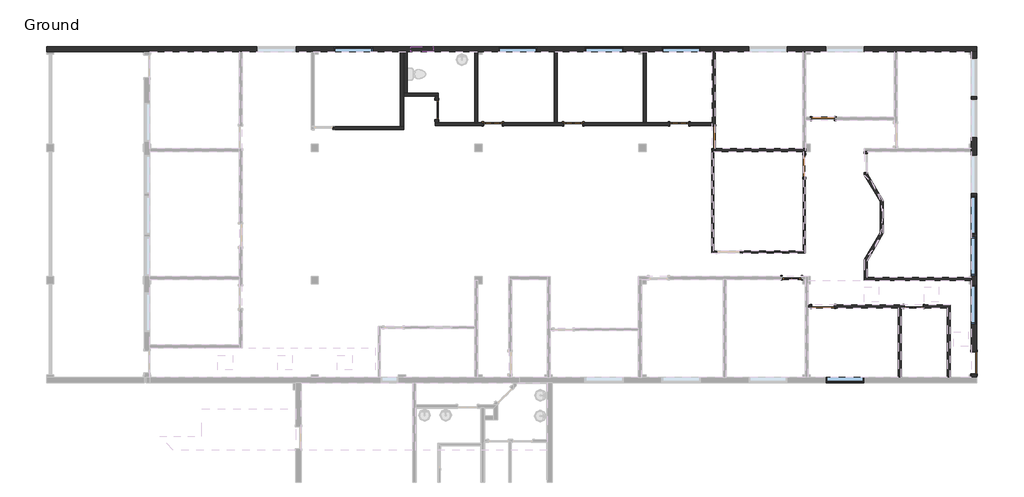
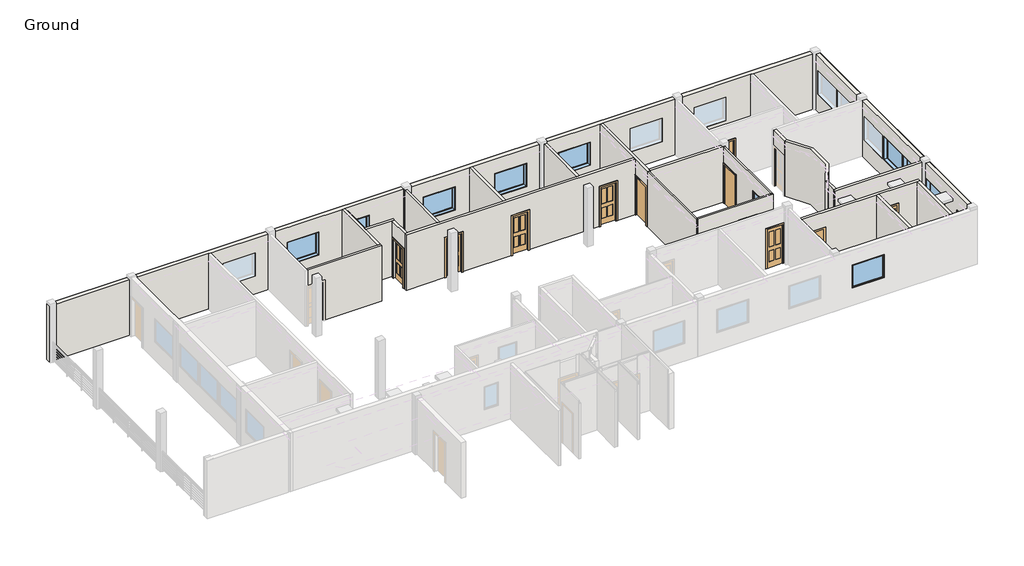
# One storey, part 3 of 4: 23 walls, 11 doors, 11 windows.
"""IFC4 building model written with IfcOpenShell, lengths in millimetres."""

from ifc_helpers import new_model, si_unit, point, frame, frame_2d, origin, origin_with_axes, place, context, project, spatial, polyline, circle_curve, trimmed, segment, composite_curve, outline, extrude, faceted_brep, transform, mapped, element, save
from components import door_43f271b1, door_0f3f7c0c, door_c0366a91, door_dce19e30, door_bfc1a142, door_dc1c1a0d, door_238e255b, fixed_3_x_3_w3_42a4cb5f, window_74e4fc61, window_a0bf6c86

model = new_model("IFC4")

# Units and contexts
model_context = context("Model", 3, world=origin())
ifc_project = project(units=[si_unit("LENGTHUNIT", "METRE", prefix="MILLI")], contexts=[model_context])

# Site, building, storey
site = spatial("IfcSite", under=ifc_project)
building = spatial("IfcBuilding", under=site)
storey = spatial("IfcBuildingStorey", under=building, Name="Ground", Elevation=0.0)

# Doors
placement = place(None, origin())
door_shape = door_43f271b1(model_context)
element("IfcDoor", 1, ObjectType="Single-Flush : 36\" x 80\" - D1", at=placement, inside=storey, context=model_context, shape_type="MappedRepresentation", body=[
    mapped(door_shape, transform((-16750.902824, 18800.73529, 0.0), x_axis=(0.0, -0.9999999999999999, 0.0), y_axis=(0.9999999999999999, 0.0, 0.0), z_axis=(0.0, 0.0, 1.0))),
])
element("IfcDoor", 2, ObjectType="Single-Flush : 36\" x 80\" - D1", at=placement, inside=storey, context=model_context, shape_type="MappedRepresentation", body=[
    mapped(door_shape, transform((-12274.152824, 11880.82279, 0.0), x_axis=(-0.9999999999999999, 0.0, 0.0), y_axis=(0.0, -0.9999999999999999, 0.0), z_axis=(0.0, 0.0, 1.0))),
])
door_2_shape = door_0f3f7c0c(model_context)
element("IfcDoor", 3, ObjectType="Single-Flush : 36\" x 80\" - D1", at=placement, inside=storey, context=model_context, shape_type="MappedRepresentation", body=[
    mapped(door_2_shape, transform((-12274.152824, 19570.67279, 0.0), x_axis=(-1.0, 0.0, 0.0), y_axis=(0.0, -1.0, 0.0), z_axis=(0.0, 0.0, 1.0))),
])
door_3_shape = door_c0366a91(model_context)
element("IfcDoor", 4, ObjectType="Single-Flush : 36\" x 80\" - D1", at=placement, inside=storey, context=model_context, shape_type="MappedRepresentation", body=[
    mapped(door_3_shape, transform((-13044.090324, 17627.57279, 0.0), x_axis=(0.0, 1.0, 0.0), y_axis=(-1.0, 0.0, 0.0), z_axis=(0.0, 0.0, 1.0))),
])
door_4_shape = door_dce19e30(model_context)
element("IfcDoor", 5, ObjectType="Single-Flush : 36\" x 80\" - D1", at=placement, inside=storey, context=model_context, shape_type="MappedRepresentation", body=[
    mapped(door_4_shape, transform((-6095.602824, 9569.42279, 0.0), x_axis=(0.0, -0.9999999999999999, 0.0), y_axis=(0.9999999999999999, 0.0, 0.0), z_axis=(0.0, 0.0, 1.0))),
])
door_5_shape = door_bfc1a142(model_context)
element("IfcDoor", 6, ObjectType="Single-Glass 3 : 30\" x 80\" - D3", at=placement, inside=storey, context=model_context, shape_type="MappedRepresentation", body=[
    mapped(door_5_shape, transform((-25786.952824, 19354.77279, 0.0), x_axis=(-1.0, 0.0, 0.0), y_axis=(0.0, -1.0, 0.0), z_axis=(0.0, 0.0, 1.0))),
])
element("IfcDoor", 7, ObjectType="Single-Glass 3 : 30\" x 80\" - D3", at=placement, inside=storey, context=model_context, shape_type="MappedRepresentation", body=[
    mapped(door_5_shape, transform((-13556.852824, 13055.57279, 0.0), x_axis=(1.0, 0.0, 0.0), y_axis=(0.0, 1.0, 0.0), z_axis=(0.0, 0.0, 1.0))),
])
element("IfcDoor", 8, ObjectType="Single-Glass 3 : 30\" x 80\" - D3", at=placement, inside=storey, context=model_context, shape_type="MappedRepresentation", body=[
    mapped(door_5_shape, transform((-22497.652824, 19354.77279, 0.0), x_axis=(-1.0, 0.0, 0.0), y_axis=(0.0, -1.0, 0.0), z_axis=(0.0, 0.0, 1.0))),
])
door_6_shape = door_dc1c1a0d(model_context)
element("IfcDoor", 9, ObjectType="Single-Glass 3 : 30\" x 80\" - D3", at=placement, inside=storey, context=model_context, shape_type="MappedRepresentation", body=[
    mapped(door_6_shape, transform((-8567.340324, 11880.82279, 0.0), x_axis=(-0.9999999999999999, 0.0, 0.0), y_axis=(0.0, -0.9999999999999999, 0.0), z_axis=(0.0, 0.0, 1.0))),
])
element("IfcDoor", 10, ObjectType="Single-Glass 3 : 30\" x 80\" - D3", at=placement, inside=storey, context=model_context, shape_type="MappedRepresentation", body=[
    mapped(door_6_shape, transform((-18159.809074, 19354.77279, 0.0), x_axis=(1.0, 0.0, 0.0), y_axis=(0.0, 1.0, 0.0), z_axis=(0.0, 0.0, 1.0))),
])
door_7_shape = door_238e255b(model_context)
element("IfcDoor", 11, ObjectType="Single-Glass 3 : 32\" x 80\" - D2", at=placement, inside=storey, context=model_context, shape_type="MappedRepresentation", body=[
    mapped(door_7_shape, transform((-28079.302824, 19932.62279, 0.0), x_axis=(0.0, -1.0, 0.0), y_axis=(1.0, 0.0, 0.0), z_axis=(0.0, 0.0, 1.0))),
])

# Walls
element("IfcWall", 12, ObjectType="Generic - 6\"", at=placement, inside=storey, context=model_context, shape_type="SweptSolid", body=[
    extrude(outline(polyline([(-29439.790324, 20623.18529), (-29439.790324, 22307.52279), (-29287.390324, 22307.52279), (-29287.390324, 20623.18529), (-29439.790324, 20623.18529)])), origin_with_axes(), (0.0, 0.0, 1.0), 2743.2),
])
element("IfcWall", 13, ObjectType="Generic - 8\" Masonry existing", at=placement, inside=storey, context=model_context, shape_type="Brep", body=[
    faceted_brep([(-44043.202824, 22307.52279, 0.0), (-40037.940324, 22307.52279, 0.0), (-39818.865324, 22307.52279, 0.0), (-36166.027824, 22307.52279, 0.0), (-36042.202824, 22307.52279, 0.0), (-33222.802824, 22307.52279, 0.0), (-33098.977824, 22307.52279, 0.0), (-29563.615324, 22307.52279, 0.0), (-29439.790324, 22307.52279, 0.0), (-29287.390324, 22307.52279, 0.0), (-26517.202824, 22307.52279, 0.0), (-26393.377824, 22307.52279, 0.0), (-23264.415324, 22307.52279, 0.0), (-23140.590324, 22307.52279, 0.0), (-19630.627824, 22307.52279, 0.0), (-19506.802824, 22307.52279, 0.0), (-16812.815324, 22307.52279, 0.0), (-16688.990324, 22307.52279, 0.0), (-13106.002824, 22307.52279, 0.0), (-12982.177824, 22307.52279, 0.0), (-9372.202824, 22307.52279, 0.0), (-9248.377824, 22307.52279, 0.0), (-6205.140324, 22307.52279, 0.0), (-5986.065324, 22307.52279, 0.0), (-5986.065324, 22307.52279, 2895.6), (-5998.765324, 22307.52279, 2895.6), (-6205.140324, 22307.52279, 2895.6), (-9248.377824, 22307.52279, 2895.6), (-9372.202824, 22307.52279, 2895.6), (-12982.177824, 22307.52279, 2895.6), (-13106.002824, 22307.52279, 2895.6), (-16688.990324, 22307.52279, 2895.6), (-16812.815324, 22307.52279, 2895.6), (-19506.802824, 22307.52279, 2895.6), (-19630.627824, 22307.52279, 2895.6), (-23140.590324, 22307.52279, 2895.6), (-23264.415324, 22307.52279, 2895.6), (-26393.377824, 22307.52279, 2895.6), (-26517.202824, 22307.52279, 2895.6), (-29439.790324, 22307.52279, 2895.6), (-29563.615324, 22307.52279, 2895.6), (-33098.977824, 22307.52279, 2895.6), (-33222.802824, 22307.52279, 2895.6), (-36042.202824, 22307.52279, 2895.6), (-36166.027824, 22307.52279, 2895.6), (-44043.202824, 22307.52279, 2895.6), (-28220.590324, 22307.52279, 2133.6), (-28220.590324, 22307.52279, 1219.2), (-29134.990324, 22307.52279, 1219.2), (-29134.990324, 22307.52279, 2133.6), (-17297.002824, 22307.52279, 2133.6), (-17297.002824, 22307.52279, 914.4), (-18871.802824, 22307.52279, 914.4), (-18871.802824, 22307.52279, 2133.6), (-20446.602824, 22307.52279, 2133.6), (-20446.602824, 22307.52279, 914.4), (-22021.402824, 22307.52279, 914.4), (-22021.402824, 22307.52279, 2133.6), (-10591.402824, 22307.52279, 2133.6), (-10591.402824, 22307.52279, 914.4), (-12166.202824, 22307.52279, 914.4), (-12166.202824, 22307.52279, 2133.6), (-13741.002824, 22307.52279, 2133.6), (-13741.002824, 22307.52279, 914.4), (-15315.802824, 22307.52279, 914.4), (-15315.802824, 22307.52279, 2133.6), (-23977.202824, 22307.52279, 2133.6), (-23977.202824, 22307.52279, 914.4), (-25552.002824, 22307.52279, 914.4), (-25552.002824, 22307.52279, 2133.6), (-30708.202824, 22307.52279, 2133.6), (-30708.202824, 22307.52279, 914.4), (-32283.002824, 22307.52279, 914.4), (-32283.002824, 22307.52279, 2133.6), (-33857.802824, 22307.52279, 2133.6), (-33857.802824, 22307.52279, 914.4), (-35432.602824, 22307.52279, 914.4), (-35432.602824, 22307.52279, 2133.6), (-44043.202824, 22526.59779, 0.0), (-44043.202824, 22526.59779, 2895.6), (-5998.765324, 22526.59779, 2895.6), (-5986.065324, 22526.59779, 2895.6), (-5986.065324, 22526.59779, 0.0), (-28220.590324, 22526.59779, 2133.6), (-29134.990324, 22526.59779, 2133.6), (-29134.990324, 22526.59779, 1219.2), (-28220.590324, 22526.59779, 1219.2), (-17297.002824, 22526.59779, 2133.6), (-18871.802824, 22526.59779, 2133.6), (-18871.802824, 22526.59779, 914.4), (-17297.002824, 22526.59779, 914.4), (-20446.602824, 22526.59779, 2133.6), (-22021.402824, 22526.59779, 2133.6), (-22021.402824, 22526.59779, 914.4), (-20446.602824, 22526.59779, 914.4), (-10591.402824, 22526.59779, 2133.6), (-12166.202824, 22526.59779, 2133.6), (-12166.202824, 22526.59779, 914.4), (-10591.402824, 22526.59779, 914.4), (-13741.002824, 22526.59779, 2133.6), (-15315.802824, 22526.59779, 2133.6), (-15315.802824, 22526.59779, 914.4), (-13741.002824, 22526.59779, 914.4), (-23977.202824, 22526.59779, 2133.6), (-25552.002824, 22526.59779, 2133.6), (-25552.002824, 22526.59779, 914.4), (-23977.202824, 22526.59779, 914.4), (-30708.202824, 22526.59779, 2133.6), (-32283.002824, 22526.59779, 2133.6), (-32283.002824, 22526.59779, 914.4), (-30708.202824, 22526.59779, 914.4), (-33857.802824, 22526.59779, 2133.6), (-35432.602824, 22526.59779, 2133.6), (-35432.602824, 22526.59779, 914.4), (-33857.802824, 22526.59779, 914.4), (-44043.202824, 22513.89779, 2895.6), (-5986.065324, 22513.89779, 2895.6), (-5998.765324, 22513.89779, 2895.6)], [[[0, 1, 2, 3, 4, 5, 6, 7, 8, 9, 10, 11, 12, 13, 14, 15, 16, 17, 18, 19, 20, 21, 22, 23, 24, 25, 26, 27, 28, 29, 30, 31, 32, 33, 34, 35, 36, 37, 38, 39, 40, 41, 42, 43, 44, 45], [46, 47, 48, 49], [50, 51, 52, 53], [54, 55, 56, 57], [58, 59, 60, 61], [62, 63, 64, 65], [66, 67, 68, 69], [70, 71, 72, 73], [74, 75, 76, 77]], [[78, 79, 80, 81, 82], [83, 84, 85, 86], [87, 88, 89, 90], [91, 92, 93, 94], [95, 96, 97, 98], [99, 100, 101, 102], [103, 104, 105, 106], [107, 108, 109, 110], [111, 112, 113, 114]], [[23, 22, 21, 20, 19, 18, 17, 16, 15, 14, 13, 12, 11, 10, 9, 8, 7, 6, 5, 4, 3, 2, 1, 0, 78, 82]], [[0, 45, 115, 79, 78]], [[24, 23, 82, 81, 116]], [[25, 24, 116, 117]], [[80, 79, 115, 117]], [[116, 81, 80, 117]], [[45, 44, 43, 42, 41, 40, 39, 38, 37, 36, 35, 34, 33, 32, 31, 30, 29, 28, 27, 26, 25, 117, 115]], [[47, 46, 83, 86]], [[48, 47, 86, 85]], [[49, 48, 85, 84]], [[46, 49, 84, 83]], [[51, 50, 87, 90]], [[52, 51, 90, 89]], [[53, 52, 89, 88]], [[50, 53, 88, 87]], [[55, 54, 91, 94]], [[56, 55, 94, 93]], [[57, 56, 93, 92]], [[54, 57, 92, 91]], [[59, 58, 95, 98]], [[60, 59, 98, 97]], [[61, 60, 97, 96]], [[58, 61, 96, 95]], [[63, 62, 99, 102]], [[64, 63, 102, 101]], [[65, 64, 101, 100]], [[62, 65, 100, 99]], [[67, 66, 103, 106]], [[68, 67, 106, 105]], [[69, 68, 105, 104]], [[66, 69, 104, 103]], [[71, 70, 107, 110]], [[72, 71, 110, 109]], [[73, 72, 109, 108]], [[70, 73, 108, 107]], [[75, 74, 111, 114]], [[76, 75, 114, 113]], [[77, 76, 113, 112]], [[74, 77, 112, 111]]]),
])
element("IfcWall", 14, ObjectType="Generic - 8\" Masonry existing", at=placement, inside=storey, context=model_context, shape_type="Brep", body=[
    faceted_brep([(-5986.065324, 8972.52279, 0.0), (-5986.065324, 9112.22279, 0.0), (-5986.065324, 9112.22279, 2032.0), (-5986.065324, 10026.62279, 2032.0), (-5986.065324, 10026.62279, 0.0), (-5986.065324, 22307.52279, 0.0), (-5986.065324, 22307.52279, 2895.6), (-5986.065324, 8972.52279, 2895.6), (-5986.065324, 11169.62279, 2133.6), (-5986.065324, 12744.42279, 2133.6), (-5986.065324, 12744.42279, 914.4), (-5986.065324, 11169.62279, 914.4), (-5986.065324, 13150.82279, 2133.6), (-5986.065324, 14725.62279, 2133.6), (-5986.065324, 14725.62279, 914.4), (-5986.065324, 13150.82279, 914.4), (-5986.065324, 14827.22279, 2133.6), (-5986.065324, 16402.02279, 2133.6), (-5986.065324, 16402.02279, 914.4), (-5986.065324, 14827.22279, 914.4), (-5986.065324, 16503.62279, 2133.6), (-5986.065324, 18078.42279, 2133.6), (-5986.065324, 18078.42279, 914.4), (-5986.065324, 16503.62279, 914.4), (-5986.065324, 18789.62279, 2133.6), (-5986.065324, 20364.42279, 2133.6), (-5986.065324, 20364.42279, 914.4), (-5986.065324, 18789.62279, 914.4), (-5986.065324, 20466.02279, 2133.6), (-5986.065324, 22040.82279, 2133.6), (-5986.065324, 22040.82279, 914.4), (-5986.065324, 20466.02279, 914.4), (-6205.140324, 9112.22279, 2032.0), (-6205.140324, 9112.22279, 0.0), (-6205.140324, 8972.52279, 0.0), (-6205.140324, 8972.52279, 2895.6), (-6205.140324, 12949.21029, 2895.6), (-6205.140324, 13073.03529, 2895.6), (-6205.140324, 18219.71029, 2895.6), (-6205.140324, 18343.53529, 2895.6), (-6205.140324, 22307.52279, 2895.6), (-6205.140324, 22307.52279, 0.0), (-6205.140324, 18343.53529, 0.0), (-6205.140324, 18219.71029, 0.0), (-6205.140324, 13073.03529, 0.0), (-6205.140324, 12949.21029, 0.0), (-6205.140324, 10026.62279, 0.0), (-6205.140324, 10026.62279, 2032.0), (-6205.140324, 11169.62279, 2133.6), (-6205.140324, 11169.62279, 914.4), (-6205.140324, 12744.42279, 914.4), (-6205.140324, 12744.42279, 2133.6), (-6205.140324, 13150.82279, 2133.6), (-6205.140324, 13150.82279, 914.4), (-6205.140324, 14725.62279, 914.4), (-6205.140324, 14725.62279, 2133.6), (-6205.140324, 14827.22279, 2133.6), (-6205.140324, 14827.22279, 914.4), (-6205.140324, 16402.02279, 914.4), (-6205.140324, 16402.02279, 2133.6), (-6205.140324, 16503.62279, 2133.6), (-6205.140324, 16503.62279, 914.4), (-6205.140324, 18078.42279, 914.4), (-6205.140324, 18078.42279, 2133.6), (-6205.140324, 18789.62279, 2133.6), (-6205.140324, 18789.62279, 914.4), (-6205.140324, 20364.42279, 914.4), (-6205.140324, 20364.42279, 2133.6), (-6205.140324, 20466.02279, 2133.6), (-6205.140324, 20466.02279, 914.4), (-6205.140324, 22040.82279, 914.4), (-6205.140324, 22040.82279, 2133.6), (-5998.765324, 22307.52279, 2895.6), (-5998.765324, 8972.52279, 2895.6)], [[[0, 1, 2, 3, 4, 5, 6, 7], [8, 9, 10, 11], [12, 13, 14, 15], [16, 17, 18, 19], [20, 21, 22, 23], [24, 25, 26, 27], [28, 29, 30, 31]], [[32, 33, 34, 35, 36, 37, 38, 39, 40, 41, 42, 43, 44, 45, 46, 47], [48, 49, 50, 51], [52, 53, 54, 55], [56, 57, 58, 59], [60, 61, 62, 63], [64, 65, 66, 67], [68, 69, 70, 71]], [[34, 33, 1, 0]], [[46, 45, 44, 43, 42, 41, 5, 4]], [[6, 5, 41, 40, 72]], [[0, 7, 73, 35, 34]], [[7, 6, 72, 73]], [[72, 40, 39, 38, 37, 36, 35, 73]], [[2, 1, 33, 32]], [[3, 2, 32, 47]], [[4, 3, 47, 46]], [[49, 48, 8, 11]], [[50, 49, 11, 10]], [[51, 50, 10, 9]], [[48, 51, 9, 8]], [[53, 52, 12, 15]], [[54, 53, 15, 14]], [[55, 54, 14, 13]], [[52, 55, 13, 12]], [[57, 56, 16, 19]], [[58, 57, 19, 18]], [[59, 58, 18, 17]], [[56, 59, 17, 16]], [[61, 60, 20, 23]], [[62, 61, 23, 22]], [[63, 62, 22, 21]], [[60, 63, 21, 20]], [[65, 64, 24, 27]], [[66, 65, 27, 26]], [[67, 66, 26, 25]], [[64, 67, 25, 24]], [[69, 68, 28, 31]], [[70, 69, 31, 30]], [[71, 70, 30, 29]], [[68, 71, 29, 28]]]),
])
element("IfcWall", 15, ObjectType="Interior - 3 1/8\" Partition (1-hr)", at=placement, inside=storey, context=model_context, shape_type="Brep", body=[
    faceted_brep([(-16820.752824, 18219.71029, 0.0), (-16820.752824, 14071.57279, 0.0), (-16820.752824, 14071.57279, 2895.6), (-16820.752824, 18219.71029, 2895.6), (-16741.377824, 18219.71029, 0.0), (-16741.377824, 18219.71029, 2895.6), (-16741.377824, 14150.94779, 2895.6), (-16741.377824, 14071.57279, 2895.6), (-16741.377824, 14071.57279, 0.0), (-16741.377824, 14150.94779, 0.0), (-16812.815324, 18219.71029, 0.0), (-16812.815324, 18219.71029, 2895.6)], [[[0, 1, 2, 3]], [[4, 5, 6, 7, 8, 9]], [[1, 0, 10, 4, 9, 8]], [[3, 2, 7, 6, 5, 11]], [[2, 1, 8, 7]], [[0, 3, 11, 5, 4, 10]]]),
])
element("IfcWall", 16, ObjectType="Interior - 3 1/8\" Partition (1-hr)", at=placement, inside=storey, context=model_context, shape_type="Brep", body=[
    faceted_brep([(-16741.377824, 14071.57279, 0.0), (-16598.502824, 14071.57279, 0.0), (-16598.502824, 14071.57279, 2032.0), (-15684.102824, 14071.57279, 2032.0), (-15684.102824, 14071.57279, 0.0), (-13004.402824, 14071.57279, 0.0), (-13004.402824, 14071.57279, 2895.6), (-16741.377824, 14071.57279, 2895.6), (-14720.490324, 14071.57279, 2133.6), (-13806.090324, 14071.57279, 2133.6), (-13806.090324, 14071.57279, 914.4), (-14720.490324, 14071.57279, 914.4), (-16598.502824, 14150.94779, 2032.0), (-16598.502824, 14150.94779, 0.0), (-16741.377824, 14150.94779, 0.0), (-16741.377824, 14150.94779, 2895.6), (-13083.777824, 14150.94779, 2895.6), (-13004.402824, 14150.94779, 2895.6), (-13004.402824, 14150.94779, 0.0), (-13083.777824, 14150.94779, 0.0), (-15684.102824, 14150.94779, 0.0), (-15684.102824, 14150.94779, 2032.0), (-14720.490324, 14150.94779, 2133.6), (-14720.490324, 14150.94779, 914.4), (-13806.090324, 14150.94779, 914.4), (-13806.090324, 14150.94779, 2133.6)], [[[0, 1, 2, 3, 4, 5, 6, 7], [8, 9, 10, 11]], [[12, 13, 14, 15, 16, 17, 18, 19, 20, 21], [22, 23, 24, 25]], [[14, 13, 1, 0]], [[20, 19, 18, 5, 4]], [[7, 6, 17, 16, 15]], [[6, 5, 18, 17]], [[0, 7, 15, 14]], [[2, 1, 13, 12]], [[3, 2, 12, 21]], [[4, 3, 21, 20]], [[23, 22, 8, 11]], [[24, 23, 11, 10]], [[25, 24, 10, 9]], [[22, 25, 9, 8]]]),
])
element("IfcWall", 17, ObjectType="Interior - 3 1/8\" Partition (1-hr)", at=placement, inside=storey, context=model_context, shape_type="SweptSolid", body=[
    extrude(outline(polyline([(18219.71029, 0.0), (18084.77279, 0.0), (18084.77279, 2032.0), (17170.37279, 2032.0), (17170.37279, 0.0), (14150.94779, 0.0), (14150.94779, 2895.6), (18219.71029, 2895.6), (18219.71029, 0.0)]), holes=[polyline([(14760.54779, 2133.6), (14760.54779, 914.4), (15674.94779, 914.4), (15674.94779, 2133.6), (14760.54779, 2133.6)])]), frame((-13083.777824, 0.0, 0.0), z_axis=(1.0, 0.0, 0.0), x_axis=(0.0, 1.0, 0.0)), (0.0, 0.0, 1.0), 79.375),
])
element("IfcWall", 18, ObjectType="Interior - 5 1/2\" Partition (1-hr)", at=placement, inside=storey, context=model_context, shape_type="Brep", body=[
    faceted_brep([(-6205.140324, 13073.03529, 0.0), (-10467.577824, 13073.03529, 0.0), (-10591.402824, 13073.03529, 0.0), (-10591.402824, 13073.03529, 2895.6), (-10467.577824, 13073.03529, 2895.6), (-6205.140324, 13073.03529, 2895.6), (-6205.140324, 12949.21029, 0.0), (-6205.140324, 12949.21029, 2895.6), (-10591.402824, 12949.21029, 2895.6), (-10591.402824, 12949.21029, 0.0)], [[[0, 1, 2, 3, 4, 5]], [[6, 7, 8, 9]], [[2, 1, 0, 6, 9]], [[5, 4, 3, 8, 7]], [[3, 2, 9, 8]], [[0, 5, 7, 6]]]),
])
element("IfcWall", 19, ObjectType="Interior - 5 1/2\" Partition (1-hr)", at=placement, inside=storey, context=model_context, shape_type="Brep", body=[
    faceted_brep([(-12982.177824, 18343.53529, 0.0), (-13106.002824, 18343.53529, 0.0), (-16688.990324, 18343.53529, 0.0), (-16688.990324, 18343.53529, 2895.6), (-13106.002824, 18343.53529, 2895.6), (-12982.177824, 18343.53529, 2895.6), (-12982.177824, 18219.71029, 0.0), (-12982.177824, 18219.71029, 2895.6), (-13004.402824, 18219.71029, 2895.6), (-13083.777824, 18219.71029, 2895.6), (-16688.990324, 18219.71029, 2895.6), (-16688.990324, 18219.71029, 0.0), (-13083.777824, 18219.71029, 0.0), (-13004.402824, 18219.71029, 0.0)], [[[0, 1, 2, 3, 4, 5]], [[6, 7, 8, 9, 10, 11, 12, 13]], [[2, 1, 0, 6, 13, 12, 11]], [[5, 4, 3, 10, 9, 8, 7]], [[0, 5, 7, 6]], [[3, 2, 11, 10]]]),
])
element("IfcWall", 20, ObjectType="Interior - 5 1/2\" Partition (1-hr)", at=placement, inside=storey, context=model_context, shape_type="Brep", body=[
    faceted_brep([(-16688.990324, 18219.71029, 0.0), (-16688.990324, 18343.53529, 0.0), (-16688.990324, 18343.53529, 2032.0), (-16688.990324, 19257.93529, 2032.0), (-16688.990324, 19257.93529, 0.0), (-16688.990324, 22307.52279, 0.0), (-16688.990324, 22307.52279, 2895.6), (-16688.990324, 18343.53529, 2895.6), (-16688.990324, 18219.71029, 2895.6), (-16812.815324, 18343.53529, 2032.0), (-16812.815324, 18343.53529, 0.0), (-16812.815324, 18219.71029, 0.0), (-16812.815324, 18219.71029, 2895.6), (-16812.815324, 19292.86029, 2895.6), (-16812.815324, 19416.68529, 2895.6), (-16812.815324, 22307.52279, 2895.6), (-16812.815324, 22307.52279, 0.0), (-16812.815324, 19416.68529, 0.0), (-16812.815324, 19292.86029, 0.0), (-16812.815324, 19257.93529, 0.0), (-16812.815324, 19257.93529, 2032.0), (-16741.377824, 18219.71029, 0.0), (-16741.377824, 18219.71029, 2895.6)], [[[0, 1, 2, 3, 4, 5, 6, 7, 8]], [[9, 10, 11, 12, 13, 14, 15, 16, 17, 18, 19, 20]], [[11, 10, 1, 0, 21]], [[19, 18, 17, 16, 5, 4]], [[8, 7, 6, 15, 14, 13, 12, 22]], [[0, 8, 22, 12, 11, 21]], [[6, 5, 16, 15]], [[2, 1, 10, 9]], [[3, 2, 9, 20]], [[4, 3, 20, 19]]]),
])
element("IfcWall", 21, ObjectType="Interior - 5 1/2\" Partition (1-hr)", at=placement, inside=storey, context=model_context, shape_type="SweptSolid", body=[
    extrude(outline(composite_curve([segment(polyline([(-10467.577824, 13753.2813276), (-10591.402824, 13806.060194)]), True, "CONTINUOUS"), segment(trimmed(circle_curve(frame_2d((-12218.244142, 15538.42279)), 2376.4875), [point((-10591.402824, 13806.060194))], [point((-10591.402824, 17270.785386))], True, "CARTESIAN"), True, "CONTINUOUS"), segment(polyline([(-10591.402824, 17270.785386), (-10467.577824, 17323.5642525)]), True, "CONTINUOUS"), segment(trimmed(circle_curve(frame_2d((-12218.244142, 15538.42279)), 2500.3125), [point((-10467.577824, 17323.5642525))], [point((-10467.577824, 13753.2813276))], False, "CARTESIAN"), True, "CONTINUOUS")], self_intersect=False)), origin_with_axes(), (0.0, 0.0, 1.0), 2895.6),
])
element("IfcWall", 22, ObjectType="Interior - 5 1/2\" Partition (1-hr)", at=placement, inside=storey, context=model_context, shape_type="SweptSolid", body=[
    extrude(outline(polyline([(-10591.402824, 13073.03529), (-10591.402824, 13806.060194), (-10467.577824, 13753.2813276), (-10467.577824, 13073.03529), (-10591.402824, 13073.03529)])), origin_with_axes(), (0.0, 0.0, 1.0), 2895.6),
])
element("IfcWall", 23, ObjectType="Interior - 5 1/2\" Partition (1-hr)", at=placement, inside=storey, context=model_context, shape_type="Brep", body=[
    faceted_brep([(-10591.402824, 18219.71029, 0.0), (-10591.402824, 18135.4487735, 0.0), (-10591.402824, 18135.4487735, 2032.0), (-10591.402824, 17373.4487735, 2032.0), (-10591.402824, 17373.4487735, 0.0), (-10591.402824, 17270.785386, 0.0), (-10591.402824, 17270.785386, 2895.6), (-10591.402824, 18219.71029, 2895.6), (-10467.577824, 18135.4487735, 2032.0), (-10467.577824, 18135.4487735, 0.0), (-10467.577824, 18219.71029, 0.0), (-10467.577824, 18219.71029, 2895.6), (-10467.577824, 17323.5642525, 2895.6), (-10467.577824, 17323.5642525, 0.0), (-10467.577824, 17373.4487735, 0.0), (-10467.577824, 17373.4487735, 2032.0)], [[[0, 1, 2, 3, 4, 5, 6, 7]], [[8, 9, 10, 11, 12, 13, 14, 15]], [[10, 9, 1, 0]], [[14, 13, 5, 4]], [[7, 6, 12, 11]], [[6, 5, 13, 12]], [[0, 7, 11, 10]], [[2, 1, 9, 8]], [[3, 2, 8, 15]], [[4, 3, 15, 14]]]),
])
element("IfcWall", 24, ObjectType="Interior - 5 1/2\" Partition (1-hr)", at=placement, inside=storey, context=model_context, shape_type="Brep", body=[
    faceted_brep([(-29439.790324, 19118.23529, 2895.6), (-33098.977824, 19118.23529, 2895.6), (-33098.977824, 19118.23529, 2032.0), (-32336.8538075, 19118.23529, 2032.0), (-32336.8538075, 19118.23529, 0.0), (-29439.790324, 19118.23529, 0.0), (-33098.977824, 19242.06029, 2895.6), (-29563.615324, 19242.06029, 2895.6), (-29439.790324, 19242.06029, 2895.6), (-29439.790324, 19242.06029, 0.0), (-29563.615324, 19242.06029, 0.0), (-32336.8538075, 19242.06029, 0.0), (-32336.8538075, 19242.06029, 2032.0), (-33098.977824, 19242.06029, 2032.0)], [[[0, 1, 2, 3, 4, 5]], [[6, 7, 8, 9, 10, 11, 12, 13]], [[9, 5, 4, 11, 10]], [[1, 0, 8, 7, 6]], [[0, 5, 9, 8]], [[1, 6, 13, 2]], [[12, 3, 2, 13]], [[3, 12, 11, 4]]]),
])
element("IfcWall", 25, ObjectType="Interior - 5 1/2\" Partition (1-hr)", at=placement, inside=storey, context=model_context, shape_type="Brep", body=[
    faceted_brep([(-29439.790324, 19242.06029, 0.0), (-29439.790324, 20499.36029, 0.0), (-29439.790324, 20623.18529, 0.0), (-29439.790324, 22307.52279, 0.0), (-29439.790324, 22307.52279, 2895.6), (-29439.790324, 20623.18529, 2895.6), (-29439.790324, 20499.36029, 2895.6), (-29439.790324, 19242.06029, 2895.6), (-29563.615324, 19242.06029, 0.0), (-29563.615324, 19242.06029, 2895.6), (-29563.615324, 22307.52279, 2895.6), (-29563.615324, 22307.52279, 0.0)], [[[0, 1, 2, 3, 4, 5, 6, 7]], [[8, 9, 10, 11]], [[3, 2, 1, 0, 8, 11]], [[7, 6, 5, 4, 10, 9]], [[4, 3, 11, 10]], [[0, 7, 9, 8]]]),
])
element("IfcWall", 26, ObjectType="Interior - 5 1/2\" Partition (1-hr)", at=placement, inside=storey, context=model_context, shape_type="SweptSolid", body=[
    extrude(outline(polyline([(-26517.202824, 19416.68529), (-26517.202824, 22307.52279), (-26393.377824, 22307.52279), (-26393.377824, 19416.68529), (-26517.202824, 19416.68529)])), origin_with_axes(), (0.0, 0.0, 1.0), 2895.6),
])
element("IfcWall", 27, ObjectType="Interior - 5 1/2\" Partition (1-hr)", at=placement, inside=storey, context=model_context, shape_type="SweptSolid", body=[
    extrude(outline(polyline([(-23140.590324, 22307.52279), (-23140.590324, 19416.68529), (-23264.415324, 19416.68529), (-23264.415324, 22307.52279), (-23140.590324, 22307.52279)])), origin_with_axes(), (0.0, 0.0, 1.0), 2895.6),
])
element("IfcWall", 28, ObjectType="Interior - 5 1/2\" Partition (1-hr)", at=placement, inside=storey, context=model_context, shape_type="Brep", body=[
    faceted_brep([(-8948.2163075, 11942.73529, 2032.0), (-8948.2163075, 11942.73529, 0.0), (-11816.952824, 11942.73529, 0.0), (-11816.952824, 11942.73529, 2032.0), (-12731.352824, 11942.73529, 2032.0), (-12731.352824, 11942.73529, 0.0), (-12891.690324, 11942.73529, 0.0), (-12891.690324, 11942.73529, 2895.6), (-7071.915324, 11942.73529, 2895.6), (-7071.915324, 11942.73529, 0.0), (-8186.2163075, 11942.73529, 0.0), (-8186.2163075, 11942.73529, 2032.0), (-11816.952824, 11818.91029, 0.0), (-9207.102824, 11818.91029, 0.0), (-9083.277824, 11818.91029, 0.0), (-8948.2163075, 11818.91029, 0.0), (-8948.2163075, 11818.91029, 2032.0), (-8186.2163075, 11818.91029, 2032.0), (-8186.2163075, 11818.91029, 0.0), (-7195.740324, 11818.91029, 0.0), (-7071.915324, 11818.91029, 0.0), (-7071.915324, 11818.91029, 2895.6), (-7195.740324, 11818.91029, 2895.6), (-9083.277824, 11818.91029, 2895.6), (-9207.102824, 11818.91029, 2895.6), (-12891.690324, 11818.91029, 2895.6), (-12891.690324, 11818.91029, 0.0), (-12731.352824, 11818.91029, 0.0), (-12731.352824, 11818.91029, 2032.0), (-11816.952824, 11818.91029, 2032.0)], [[[0, 1, 2, 3, 4, 5, 6, 7, 8, 9, 10, 11]], [[12, 13, 14, 15, 16, 17, 18, 19, 20, 21, 22, 23, 24, 25, 26, 27, 28, 29]], [[6, 5, 27, 26]], [[2, 1, 15, 14, 13, 12]], [[10, 9, 20, 19, 18]], [[8, 7, 25, 24, 23, 22, 21]], [[9, 8, 21, 20]], [[7, 6, 26, 25]], [[28, 27, 5, 4]], [[29, 28, 4, 3]], [[12, 29, 3, 2]], [[16, 15, 1, 0]], [[17, 16, 0, 11]], [[18, 17, 11, 10]]]),
])
element("IfcWall", 29, ObjectType="Interior - 5 1/2\" Partition (1-hr)", at=placement, inside=storey, context=model_context, shape_type="SweptSolid", body=[
    extrude(outline(polyline([(-19630.627824, 19416.68529), (-19630.627824, 22307.52279), (-19506.802824, 22307.52279), (-19506.802824, 19416.68529), (-19630.627824, 19416.68529)])), origin_with_axes(), (0.0, 0.0, 1.0), 2895.6),
])
element("IfcWall", 30, ObjectType="Interior - 5 1/2\" Partition (1-hr)", at=placement, inside=storey, context=model_context, shape_type="Brep", body=[
    faceted_brep([(-29439.790324, 20499.36029, 0.0), (-28141.215324, 20499.36029, 0.0), (-28017.390324, 20499.36029, 0.0), (-28017.390324, 20499.36029, 2895.6), (-28141.215324, 20499.36029, 2895.6), (-29439.790324, 20499.36029, 2895.6), (-29439.790324, 20623.18529, 0.0), (-29439.790324, 20623.18529, 2743.2), (-29439.790324, 20623.18529, 2895.6), (-28017.390324, 20623.18529, 2895.6), (-28017.390324, 20623.18529, 0.0), (-29287.390324, 20623.18529, 0.0)], [[[0, 1, 2, 3, 4, 5]], [[6, 7, 8, 9, 10, 11]], [[2, 1, 0, 6, 11, 10]], [[5, 4, 3, 9, 8]], [[3, 2, 10, 9]], [[0, 5, 8, 7, 6]]]),
])
element("IfcWall", 31, ObjectType="Interior - 5 1/2\" Partition (1-hr)", at=placement, inside=storey, context=model_context, shape_type="SweptSolid", body=[
    extrude(outline(polyline([(19416.68529, 2895.6), (20499.36029, 2895.6), (20499.36029, 0.0), (20339.1468066, 0.0), (20339.1468066, 2032.0), (19526.3468066, 2032.0), (19526.3468066, 0.0), (19416.68529, 0.0), (19416.68529, 2895.6)])), frame((-28141.215324, 0.0, 0.0), z_axis=(1.0, 0.0, 0.0), x_axis=(0.0, 1.0, 0.0)), (0.0, 0.0, 1.0), 123.825),
])
element("IfcWall", 32, ObjectType="Interior - 5 1/2\" Partition (1-hr)", at=placement, inside=storey, context=model_context, shape_type="Brep", body=[
    faceted_brep([(-17778.9330906, 19292.86029, 2032.0), (-17778.9330906, 19292.86029, 0.0), (-16812.815324, 19292.86029, 0.0), (-16812.815324, 19292.86029, 2895.6), (-28141.215324, 19292.86029, 2895.6), (-28141.215324, 19292.86029, 0.0), (-26167.8288075, 19292.86029, 0.0), (-26167.8288075, 19292.86029, 2032.0), (-25405.8288075, 19292.86029, 2032.0), (-25405.8288075, 19292.86029, 0.0), (-22878.5288075, 19292.86029, 0.0), (-22878.5288075, 19292.86029, 2032.0), (-22116.5288075, 19292.86029, 2032.0), (-22116.5288075, 19292.86029, 0.0), (-18540.9330906, 19292.86029, 0.0), (-18540.9330906, 19292.86029, 2032.0), (-16812.815324, 19416.68529, 0.0), (-17778.9330906, 19416.68529, 0.0), (-17778.9330906, 19416.68529, 2032.0), (-18540.9330906, 19416.68529, 2032.0), (-18540.9330906, 19416.68529, 0.0), (-19506.802824, 19416.68529, 0.0), (-19630.627824, 19416.68529, 0.0), (-22116.5288075, 19416.68529, 0.0), (-22116.5288075, 19416.68529, 2032.0), (-22878.5288075, 19416.68529, 2032.0), (-22878.5288075, 19416.68529, 0.0), (-23140.590324, 19416.68529, 0.0), (-23264.415324, 19416.68529, 0.0), (-25405.8288075, 19416.68529, 0.0), (-25405.8288075, 19416.68529, 2032.0), (-26167.8288075, 19416.68529, 2032.0), (-26167.8288075, 19416.68529, 0.0), (-26393.377824, 19416.68529, 0.0), (-26517.202824, 19416.68529, 0.0), (-28017.390324, 19416.68529, 0.0), (-28141.215324, 19416.68529, 0.0), (-28141.215324, 19416.68529, 2895.6), (-28017.390324, 19416.68529, 2895.6), (-26517.202824, 19416.68529, 2895.6), (-26393.377824, 19416.68529, 2895.6), (-23264.415324, 19416.68529, 2895.6), (-23140.590324, 19416.68529, 2895.6), (-19630.627824, 19416.68529, 2895.6), (-19506.802824, 19416.68529, 2895.6), (-16812.815324, 19416.68529, 2895.6)], [[[0, 1, 2, 3, 4, 5, 6, 7, 8, 9, 10, 11, 12, 13, 14, 15]], [[16, 17, 18, 19, 20, 21, 22, 23, 24, 25, 26, 27, 28, 29, 30, 31, 32, 33, 34, 35, 36, 37, 38, 39, 40, 41, 42, 43, 44, 45]], [[36, 35, 34, 33, 32, 6, 5]], [[29, 28, 27, 26, 10, 9]], [[2, 1, 17, 16]], [[14, 13, 23, 22, 21, 20]], [[4, 3, 45, 44, 43, 42, 41, 40, 39, 38, 37]], [[5, 4, 37, 36]], [[3, 2, 16, 45]], [[7, 6, 32, 31]], [[8, 7, 31, 30]], [[9, 8, 30, 29]], [[11, 10, 26, 25]], [[12, 11, 25, 24]], [[13, 12, 24, 23]], [[18, 17, 1, 0]], [[19, 18, 0, 15]], [[20, 19, 15, 14]]]),
])
element("IfcWall", 33, ObjectType="Interior - 5 1/2\" Partition (1-hr)", at=placement, inside=storey, context=model_context, shape_type="SweptSolid", body=[
    extrude(outline(polyline([(-9207.102824, 8972.52279), (-9207.102824, 11818.91029), (-9083.277824, 11818.91029), (-9083.277824, 8972.52279), (-9207.102824, 8972.52279)])), origin_with_axes(), (0.0, 0.0, 1.0), 2895.6),
])
element("IfcWall", 34, ObjectType="Interior - 5 1/2\" Partition (1-hr)", at=placement, inside=storey, context=model_context, shape_type="SweptSolid", body=[
    extrude(outline(polyline([(-7195.740324, 8972.52279), (-7195.740324, 11818.91029), (-7071.915324, 11818.91029), (-7071.915324, 8972.52279), (-7195.740324, 8972.52279)])), origin_with_axes(), (0.0, 0.0, 1.0), 2895.6),
])

# Windows
fixed_3_x_3_w3_shape = fixed_3_x_3_w3_42a4cb5f(model_context)
element("IfcWindow", 35, ObjectType="Fixed : 3'x 3' - W3", at=placement, inside=storey, context=model_context, shape_type="MappedRepresentation", body=[
    mapped(fixed_3_x_3_w3_shape, transform((-28639.690324, 22417.06029, -304.8), x_axis=(1.0, 0.0, 0.0), y_axis=(0.0, 1.0, 0.0), z_axis=(0.0, 0.0, 1.0))),
])
window_shape = window_74e4fc61(model_context)
element("IfcWindow", 36, ObjectType="Fixed : 36\" x 48\" - W2", at=placement, inside=storey, context=model_context, shape_type="MappedRepresentation", body=[
    mapped(window_shape, transform((-14301.390324, 14111.26029, 0.0), x_axis=(-0.9999999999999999, 0.0, 0.0), y_axis=(0.0, -0.9999999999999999, 0.0), z_axis=(0.0, 0.0, 1.0))),
])
element("IfcWindow", 37, ObjectType="Fixed : 36\" x 48\" - W2", at=placement, inside=storey, context=model_context, shape_type="MappedRepresentation", body=[
    mapped(window_shape, transform((-13044.090324, 15179.64779, 0.0), x_axis=(0.0, -1.0, 0.0), y_axis=(1.0, 0.0, 0.0), z_axis=(0.0, 0.0, 1.0))),
])
window_2_shape = window_a0bf6c86(model_context)
element("IfcWindow", 38, ObjectType="Fixed : 60\" x 48\" - W1", at=placement, inside=storey, context=model_context, shape_type="MappedRepresentation", body=[
    mapped(window_2_shape, transform((-31457.502824, 22417.06029, 0.0), x_axis=(1.0, 0.0, 0.0), y_axis=(0.0, 1.0, 0.0), z_axis=(0.0, 0.0, 1.0))),
])
element("IfcWindow", 39, ObjectType="Fixed : 60\" x 48\" - W1", at=placement, inside=storey, context=model_context, shape_type="MappedRepresentation", body=[
    mapped(window_2_shape, transform((-24726.502824, 22417.06029, 0.0), x_axis=(1.0, 0.0, 0.0), y_axis=(0.0, 1.0, 0.0), z_axis=(0.0, 0.0, 1.0))),
])
element("IfcWindow", 40, ObjectType="Fixed : 60\" x 48\" - W1", at=placement, inside=storey, context=model_context, shape_type="MappedRepresentation", body=[
    mapped(window_2_shape, transform((-21195.902824, 22417.06029, 0.0), x_axis=(1.0, 0.0, 0.0), y_axis=(0.0, 1.0, 0.0), z_axis=(0.0, 0.0, 1.0))),
])
element("IfcWindow", 41, ObjectType="Fixed : 60\" x 48\" - W1", at=placement, inside=storey, context=model_context, shape_type="MappedRepresentation", body=[
    mapped(window_2_shape, transform((-11416.902824, 8862.98529, 0.0), x_axis=(-1.0, 0.0, 0.0), y_axis=(0.0, -1.0, 0.0), z_axis=(0.0, 0.0, 1.0))),
])
element("IfcWindow", 42, ObjectType="Fixed : 60\" x 48\" - W1", at=placement, inside=storey, context=model_context, shape_type="MappedRepresentation", body=[
    mapped(window_2_shape, transform((-6095.602824, 15576.52279, 0.0), x_axis=(0.0, -0.9999999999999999, 0.0), y_axis=(0.9999999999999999, 0.0, 0.0), z_axis=(0.0, 0.0, 1.0))),
])
element("IfcWindow", 43, ObjectType="Fixed : 60\" x 48\" - W1", at=placement, inside=storey, context=model_context, shape_type="MappedRepresentation", body=[
    mapped(window_2_shape, transform((-6095.602824, 13900.12279, 0.0), x_axis=(0.0, -0.9999999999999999, 0.0), y_axis=(0.9999999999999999, 0.0, 0.0), z_axis=(0.0, 0.0, 1.0))),
])
element("IfcWindow", 44, ObjectType="Fixed : 60\" x 48\" - W1", at=placement, inside=storey, context=model_context, shape_type="MappedRepresentation", body=[
    mapped(window_2_shape, transform((-6095.602824, 11918.92279, 0.0), x_axis=(0.0, -0.9999999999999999, 0.0), y_axis=(0.9999999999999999, 0.0, 0.0), z_axis=(0.0, 0.0, 1.0))),
])
element("IfcWindow", 45, ObjectType="Fixed : 60\" x 48\" - W1", at=placement, inside=storey, context=model_context, shape_type="MappedRepresentation", body=[
    mapped(window_2_shape, transform((-18046.302824, 22417.06029, 0.0), x_axis=(1.0, 0.0, 0.0), y_axis=(0.0, 1.0, 0.0), z_axis=(0.0, 0.0, 1.0))),
])

save(model, "model.ifc")
